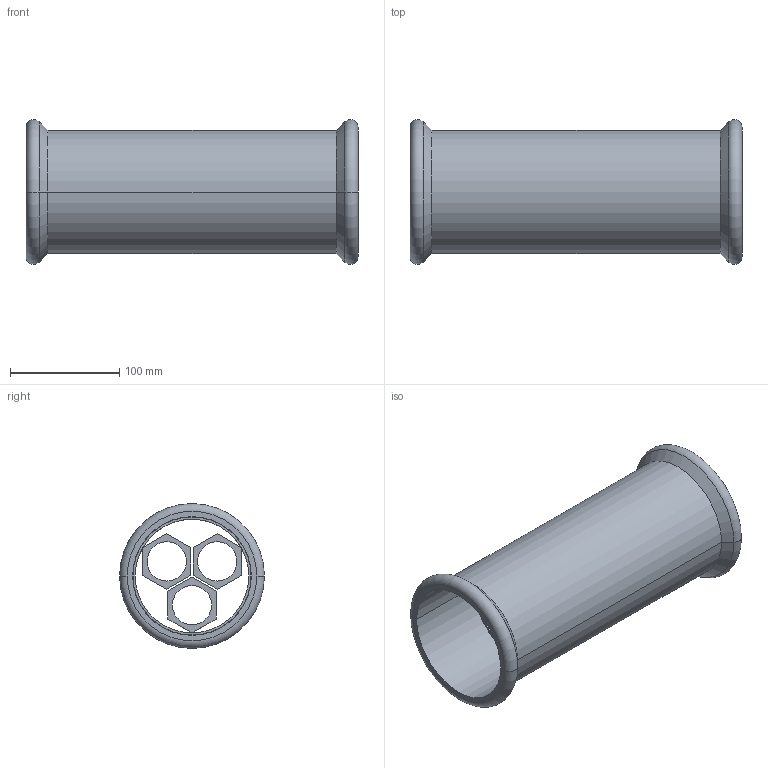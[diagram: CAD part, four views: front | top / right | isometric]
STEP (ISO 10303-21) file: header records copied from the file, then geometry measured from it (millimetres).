
FILE_DESCRIPTION(('OneSpaceDesigner STEP Export'),'2;1');
FILE_NAME('R2703 108x108.stp','2010-06-09T 9:40:26',(''),(''),'OneSpace Designer STEP processor for AP214 (Solid Model)','OneSpace Modeling 15.00A 14-Mar-2007 (C) CoCreate Software GmbH','');
FILE_SCHEMA(('AUTOMOTIVE_DESIGN { 1 0 10303 214 1 1 1 1 }'));
Length unit declared in the file: millimetre
Products named in the file (2): R2703_108x108
Assembly tree (1 placements, depth 2):
  R2703_108x108
    R2703_108x108
Bounding box: 304 x 132.58 x 132.58 mm (x, y, z)
Volume: 453582.6 mm3; surface area: 237126.6 mm2
Topology: 1 solids, 1 shells, 98 faces, 252 edges, 166 vertices
Faces by surface type: plane 60, cylinder 30, cone 4, torus 4
Entity records: 2667 total; most frequent: ORIENTED_EDGE 504, CARTESIAN_POINT 438, DIRECTION 378, EDGE_CURVE 252, VECTOR 166, LINE 166, VERTEX_POINT 166, EDGE_LOOP 122
